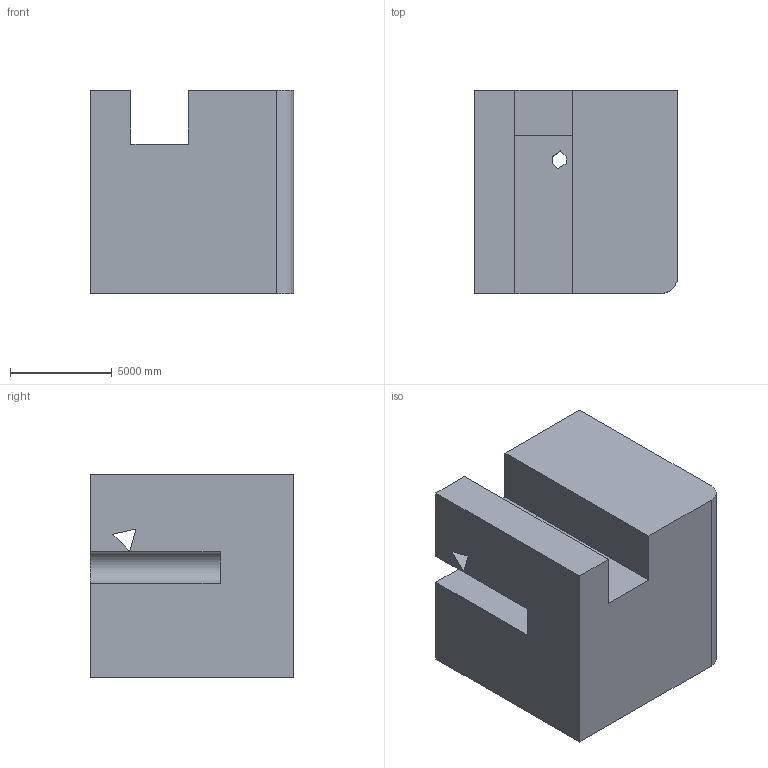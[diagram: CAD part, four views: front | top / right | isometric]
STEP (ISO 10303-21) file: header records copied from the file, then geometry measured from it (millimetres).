
FILE_DESCRIPTION (( 'STEP AP203' ), '1' );
FILE_NAME ('159.STEP', '2022-09-06T12:46:49', ( 'user' ), ( '' ), 'SwSTEP 2.0', 'SolidWorks 2021', '' );
FILE_SCHEMA (( 'CONFIG_CONTROL_DESIGN' ));
Length unit declared in the file: centimetre
Products named in the file (1): 159
Bounding box: 10000 x 10000 x 10000 mm (x, y, z)
Volume: 872007376198.8 mm3; surface area: 719124940.8 mm2
Topology: 1 solids, 1 shells, 26 faces, 72 edges, 48 vertices
Faces by surface type: plane 23, cylinder 3
Entity records: 907 total; most frequent: CARTESIAN_POINT 147, ORIENTED_EDGE 144, DIRECTION 132, EDGE_CURVE 72, VECTOR 66, LINE 66, VERTEX_POINT 48, AXIS2_PLACEMENT_3D 33
